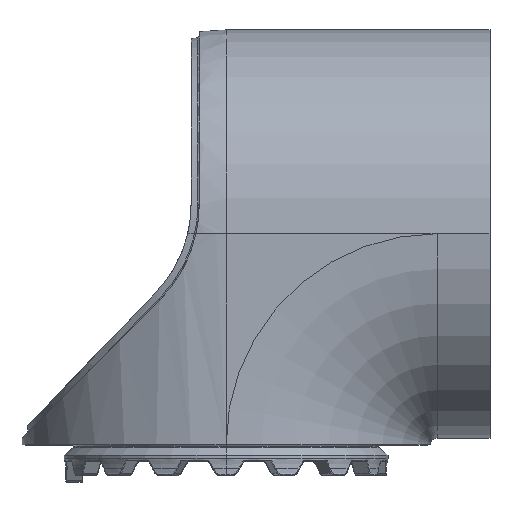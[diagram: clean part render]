
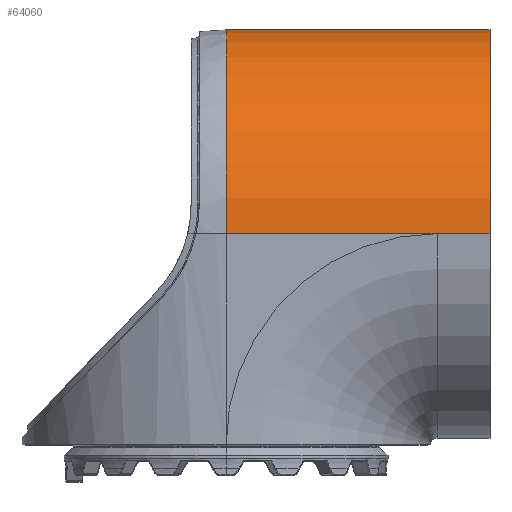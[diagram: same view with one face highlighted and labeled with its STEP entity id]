
A CAD part, top view. The second image highlights one B-rep face of the part: STEP entity #64060.
In plain terms, the highlighted cylindrical face has radius 60.5 mm (diameter 121 mm), a partial arc.
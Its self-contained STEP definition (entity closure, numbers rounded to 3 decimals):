
#100 = ORIENTED_EDGE ( 'NONE', *, *, #21300, .F. ) ;
#160 = CARTESIAN_POINT ( 'NONE',  ( 62.5, 62.5, 60.5 ) ) ;
#2459 = DIRECTION ( 'NONE',  ( 0., 1., 0. ) ) ;
#2637 = LINE ( 'NONE', #84019, #53491 ) ;
#3015 = FACE_OUTER_BOUND ( 'NONE', #65986, .T. ) ;
#3695 = CARTESIAN_POINT ( 'NONE',  ( -62.5, 62.5, -60.5 ) ) ;
#4952 = EDGE_CURVE ( 'NONE', #17232, #24171, #60222, .T. ) ;
#6627 = CARTESIAN_POINT ( 'NONE',  ( 62.5, 62.5, -60.5 ) ) ;
#7180 = VERTEX_POINT ( 'NONE', #65478 ) ;
#7275 = EDGE_CURVE ( 'NONE', #7180, #29688, #67228, .T. ) ;
#11467 = VERTEX_POINT ( 'NONE', #49082 ) ;
#14482 = ORIENTED_EDGE ( 'NONE', *, *, #58142, .F. ) ;
#16270 = DIRECTION ( 'NONE',  ( 1., 0., 0. ) ) ;
#16477 = EDGE_CURVE ( 'NONE', #21814, #24171, #2637, .T. ) ;
#17232 = VERTEX_POINT ( 'NONE', #39486 ) ;
#19061 = DIRECTION ( 'NONE',  ( -1., 0., 0. ) ) ;
#21300 = EDGE_CURVE ( 'NONE', #21814, #11467, #33423, .T. ) ;
#21814 = VERTEX_POINT ( 'NONE', #160 ) ;
#21953 = CARTESIAN_POINT ( 'NONE',  ( 78.2, 62.5, 0. ) ) ;
#22063 = AXIS2_PLACEMENT_3D ( 'NONE', #21953, #42320, #2459 ) ;
#24171 = VERTEX_POINT ( 'NONE', #32789 ) ;
#25919 = ORIENTED_EDGE ( 'NONE', *, *, #4952, .F. ) ;
#29688 = VERTEX_POINT ( 'NONE', #63873 ) ;
#30001 = AXIS2_PLACEMENT_3D ( 'NONE', #76887, #16270, #57820 ) ;
#32387 = LINE ( 'NONE', #3695, #72367 ) ;
#32789 = CARTESIAN_POINT ( 'NONE',  ( 78.2, 62.5, 60.5 ) ) ;
#33423 = LINE ( 'NONE', #67056, #61861 ) ;
#33603 = DIRECTION ( 'NONE',  ( -1., 0., 0. ) ) ;
#34527 = AXIS2_PLACEMENT_3D ( 'NONE', #38955, #19061, #46037 ) ;
#38955 = CARTESIAN_POINT ( 'NONE',  ( 0., 62.5, 0. ) ) ;
#39031 = ORIENTED_EDGE ( 'NONE', *, *, #7275, .T. ) ;
#39486 = CARTESIAN_POINT ( 'NONE',  ( 78.2, 62.5, -60.5 ) ) ;
#42320 = DIRECTION ( 'NONE',  ( 1., 0., 0. ) ) ;
#46037 = DIRECTION ( 'NONE',  ( 0., 0., 1. ) ) ;
#49082 = CARTESIAN_POINT ( 'NONE',  ( 0., 62.5, 60.5 ) ) ;
#50981 = DIRECTION ( 'NONE',  ( 1., 0., 0. ) ) ;
#53491 = VECTOR ( 'NONE', #56128, 1000. ) ;
#56128 = DIRECTION ( 'NONE',  ( 1., 0., 0. ) ) ;
#57820 = DIRECTION ( 'NONE',  ( 0., 0., -1. ) ) ;
#58142 = EDGE_CURVE ( 'NONE', #7180, #17232, #32387, .T. ) ;
#60222 = CIRCLE ( 'NONE', #22063, 60.5 ) ;
#61861 = VECTOR ( 'NONE', #74598, 1000. ) ;
#63619 = CYLINDRICAL_SURFACE ( 'NONE', #30001, 60.5 ) ;
#63873 = CARTESIAN_POINT ( 'NONE',  ( 0., 62.5, -60.5 ) ) ;
#64060 = ADVANCED_FACE ( 'NONE', ( #3015 ), #63619, .T. ) ;
#65478 = CARTESIAN_POINT ( 'NONE',  ( 62.5, 62.5, -60.5 ) ) ;
#65986 = EDGE_LOOP ( 'NONE', ( #100, #79199, #25919, #14482, #39031, #80021 ) ) ;
#67056 = CARTESIAN_POINT ( 'NONE',  ( 62.5, 62.5, 60.5 ) ) ;
#67228 = LINE ( 'NONE', #6627, #82162 ) ;
#67430 = EDGE_CURVE ( 'NONE', #11467, #29688, #82639, .T. ) ;
#72367 = VECTOR ( 'NONE', #50981, 1000. ) ;
#74598 = DIRECTION ( 'NONE',  ( -1., 0., 0. ) ) ;
#76887 = CARTESIAN_POINT ( 'NONE',  ( -62.5, 62.5, 0. ) ) ;
#79199 = ORIENTED_EDGE ( 'NONE', *, *, #16477, .T. ) ;
#80021 = ORIENTED_EDGE ( 'NONE', *, *, #67430, .F. ) ;
#82162 = VECTOR ( 'NONE', #33603, 1000. ) ;
#82639 = CIRCLE ( 'NONE', #34527, 60.5 ) ;
#84019 = CARTESIAN_POINT ( 'NONE',  ( -62.5, 62.5, 60.5 ) ) ;
